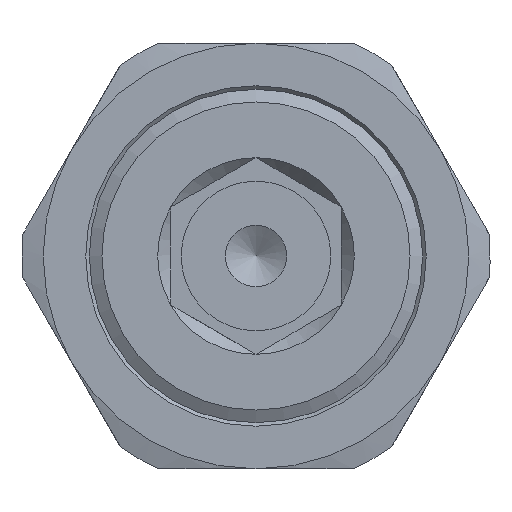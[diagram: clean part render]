
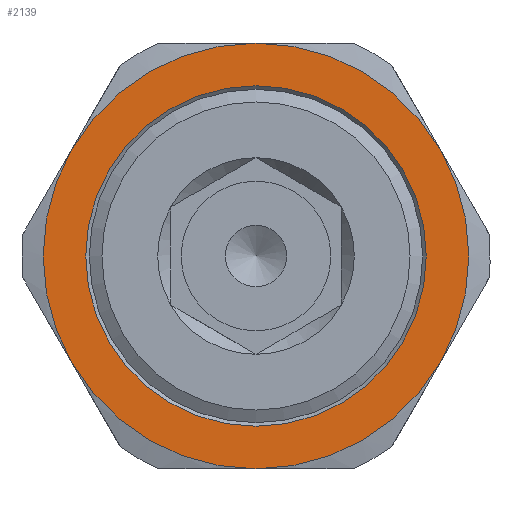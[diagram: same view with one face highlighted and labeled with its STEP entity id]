
A CAD part, left-side view. The second image highlights one B-rep face of the part: STEP entity #2139.
In plain terms, the highlighted planar face has unit normal (-1, 0, 0).
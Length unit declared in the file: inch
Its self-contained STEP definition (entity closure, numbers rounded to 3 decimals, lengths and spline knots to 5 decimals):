
#37=PLANE('',#2405);
#72=FACE_BOUND('',#641,.T.);
#492=FACE_OUTER_BOUND('',#640,.T.);
#640=EDGE_LOOP('',(#1736,#1737,#1738,#1739,#1740,#1741));
#641=EDGE_LOOP('',(#1742));
#704=CIRCLE('',#2232,0.5);
#793=CIRCLE('',#2406,0.625);
#794=CIRCLE('',#2407,0.625);
#795=CIRCLE('',#2408,0.625);
#796=CIRCLE('',#2409,0.625);
#797=CIRCLE('',#2410,0.625);
#798=CIRCLE('',#2411,0.625);
#866=VERTEX_POINT('',#3209);
#985=VERTEX_POINT('',#3990);
#986=VERTEX_POINT('',#3991);
#987=VERTEX_POINT('',#3993);
#988=VERTEX_POINT('',#3995);
#989=VERTEX_POINT('',#3997);
#990=VERTEX_POINT('',#3999);
#1058=EDGE_CURVE('',#866,#866,#704,.T.);
#1250=EDGE_CURVE('',#985,#986,#793,.T.);
#1251=EDGE_CURVE('',#986,#987,#794,.T.);
#1252=EDGE_CURVE('',#987,#988,#795,.T.);
#1253=EDGE_CURVE('',#988,#989,#796,.T.);
#1254=EDGE_CURVE('',#989,#990,#797,.T.);
#1255=EDGE_CURVE('',#990,#985,#798,.T.);
#1736=ORIENTED_EDGE('',*,*,#1250,.T.);
#1737=ORIENTED_EDGE('',*,*,#1251,.T.);
#1738=ORIENTED_EDGE('',*,*,#1252,.T.);
#1739=ORIENTED_EDGE('',*,*,#1253,.T.);
#1740=ORIENTED_EDGE('',*,*,#1254,.T.);
#1741=ORIENTED_EDGE('',*,*,#1255,.T.);
#1742=ORIENTED_EDGE('',*,*,#1058,.T.);
#2139=ADVANCED_FACE('',(#492,#72),#37,.T.);
#2232=AXIS2_PLACEMENT_3D('',#3211,#2569,#2570);
#2405=AXIS2_PLACEMENT_3D('',#3989,#2967,#2968);
#2406=AXIS2_PLACEMENT_3D('',#3992,#2969,#2970);
#2407=AXIS2_PLACEMENT_3D('',#3994,#2971,#2972);
#2408=AXIS2_PLACEMENT_3D('',#3996,#2973,#2974);
#2409=AXIS2_PLACEMENT_3D('',#3998,#2975,#2976);
#2410=AXIS2_PLACEMENT_3D('',#4000,#2977,#2978);
#2411=AXIS2_PLACEMENT_3D('',#4001,#2979,#2980);
#2569=DIRECTION('center_axis',(1.,0.,0.));
#2570=DIRECTION('ref_axis',(0.,0.,1.));
#2967=DIRECTION('center_axis',(-1.,0.,0.));
#2968=DIRECTION('ref_axis',(0.,-1.,0.));
#2969=DIRECTION('center_axis',(-1.,0.,0.));
#2970=DIRECTION('ref_axis',(0.,0.,-1.));
#2971=DIRECTION('center_axis',(-1.,0.,0.));
#2972=DIRECTION('ref_axis',(0.,0.,-1.));
#2973=DIRECTION('center_axis',(-1.,0.,0.));
#2974=DIRECTION('ref_axis',(0.,0.,-1.));
#2975=DIRECTION('center_axis',(-1.,0.,0.));
#2976=DIRECTION('ref_axis',(0.,0.,-1.));
#2977=DIRECTION('center_axis',(-1.,0.,0.));
#2978=DIRECTION('ref_axis',(0.,0.,-1.));
#2979=DIRECTION('center_axis',(-1.,0.,0.));
#2980=DIRECTION('ref_axis',(0.,0.,-1.));
#3209=CARTESIAN_POINT('',(-0.91299,0.,-0.5));
#3211=CARTESIAN_POINT('Origin',(-0.91299,0.,0.));
#3989=CARTESIAN_POINT('Origin',(-0.91299,-0.08684,0.));
#3990=CARTESIAN_POINT('',(-0.91299,0.54127,-0.3125));
#3991=CARTESIAN_POINT('',(-0.91299,0.,-0.625));
#3992=CARTESIAN_POINT('Origin',(-0.91299,0.,0.));
#3993=CARTESIAN_POINT('',(-0.91299,-0.54127,-0.3125));
#3994=CARTESIAN_POINT('Origin',(-0.91299,0.,0.));
#3995=CARTESIAN_POINT('',(-0.91299,-0.54127,0.3125));
#3996=CARTESIAN_POINT('Origin',(-0.91299,0.,0.));
#3997=CARTESIAN_POINT('',(-0.91299,0.,0.625));
#3998=CARTESIAN_POINT('Origin',(-0.91299,0.,0.));
#3999=CARTESIAN_POINT('',(-0.91299,0.54127,0.3125));
#4000=CARTESIAN_POINT('Origin',(-0.91299,0.,0.));
#4001=CARTESIAN_POINT('Origin',(-0.91299,0.,0.));
